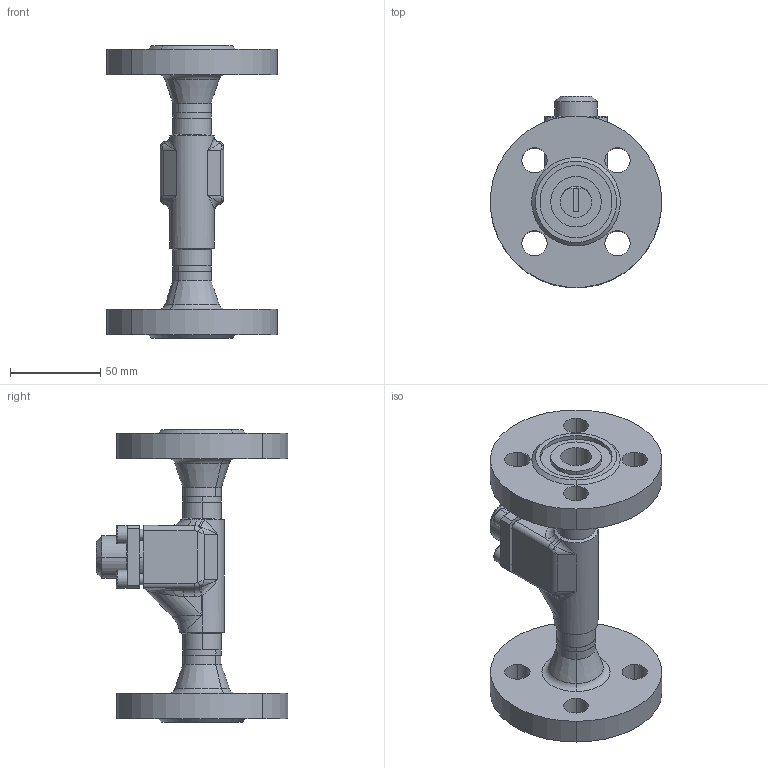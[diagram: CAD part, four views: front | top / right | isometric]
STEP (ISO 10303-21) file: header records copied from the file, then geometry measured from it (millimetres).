
FILE_DESCRIPTION (( 'STEP AP214' ), '1' );
FILE_NAME ('RV98320-DN015_DIN-FL-N_PS40.STEP', '2006-05-02T09:28:43', ( 'Herr Grams' ), ( 'AWP GmbH' ), 'SwSTEP 2.0', 'SolidWorks 2002296', '' );
FILE_SCHEMA (( 'AUTOMOTIVE_DESIGN' ));
Length unit declared in the file: millimetre
Products named in the file (9): RV98320-DN015_DIN-FL-N_PS40; Geh-kpl96320E10-DN15_PS40_DIN-FL_Standard; bead963-DN015-1_Standard; bead963-DN015-2_Standard; Gehäuse96300E10-DN15_PS40_R1_Standard; Flansch-DIN2635-Nut_PS40_DIN-Flansch-DN015_PS40-Nut; RV98300E10_Deck+Schr-DN6-15_Standard; Deckel98300E10-DN6-15_PS40_Standard; Zylinderschraube-DIN912_M 6x 18
Assembly tree (12 placements, depth 3):
  RV98320-DN015_DIN-FL-N_PS40
    Geh-kpl96320E10-DN15_PS40_DIN-FL_Standard
      Flansch-DIN2635-Nut_PS40_DIN-Flansch-DN015_PS40-Nut  x2
      bead963-DN015-1_Standard
      Gehäuse96300E10-DN15_PS40_R1_Standard
      bead963-DN015-2_Standard
    RV98300E10_Deck+Schr-DN6-15_Standard
      Zylinderschraube-DIN912_M 6x 18  x4
      Deckel98300E10-DN6-15_PS40_Standard
Bounding box: 94.64 x 105.82 x 162 mm (x, y, z)
Volume: 252569.5 mm3; surface area: 72713.9 mm2
Topology: 10 solids, 10 shells, 285 faces, 661 edges, 406 vertices
Faces by surface type: cylinder 107, plane 85, cone 41, bspline 37, torus 15
Entity records: 19748 total; most frequent: CARTESIAN_POINT 14686, ORIENTED_EDGE 934, DIRECTION 892, EDGE_CURVE 467, AXIS2_PLACEMENT_3D 370, VERTEX_POINT 288, EDGE_LOOP 233, ADVANCED_FACE 199
